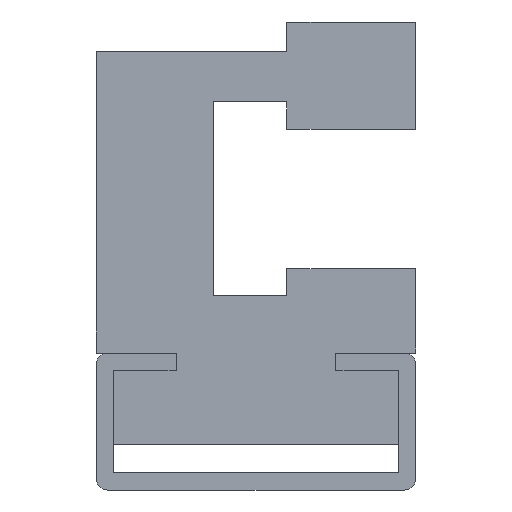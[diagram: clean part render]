
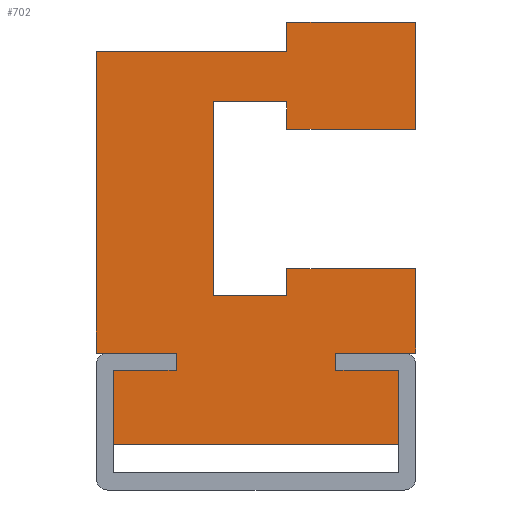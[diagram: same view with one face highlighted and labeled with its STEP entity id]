
A CAD part, front view. The second image highlights one B-rep face of the part: STEP entity #702.
In plain terms, the highlighted planar face has unit normal (0, -1, 0).
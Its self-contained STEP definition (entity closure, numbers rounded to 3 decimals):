
#61=CARTESIAN_POINT('Vertex',(2.7,0.,18.5)) ;
#66=CARTESIAN_POINT('Line Origine',(8.35,0.,18.5)) ;
#70=CARTESIAN_POINT('Vertex',(14.,0.,18.5)) ;
#97=CARTESIAN_POINT('Line Origine',(14.,0.,13.8)) ;
#101=CARTESIAN_POINT('Vertex',(14.,0.,9.1)) ;
#128=CARTESIAN_POINT('Line Origine',(8.35,0.,9.1)) ;
#132=CARTESIAN_POINT('Vertex',(2.7,0.,9.1)) ;
#159=CARTESIAN_POINT('Line Origine',(2.7,0.,10.3)) ;
#163=CARTESIAN_POINT('Vertex',(2.7,0.,11.5)) ;
#190=CARTESIAN_POINT('Line Origine',(-0.5,0.,11.5)) ;
#194=CARTESIAN_POINT('Vertex',(-3.7,0.,11.5)) ;
#221=CARTESIAN_POINT('Line Origine',(-3.7,0.,3.)) ;
#225=CARTESIAN_POINT('Vertex',(-3.7,0.,-5.5)) ;
#252=CARTESIAN_POINT('Line Origine',(-0.5,0.,-5.5)) ;
#256=CARTESIAN_POINT('Vertex',(2.7,0.,-5.5)) ;
#278=CARTESIAN_POINT('Line Origine',(2.7,0.,-4.3)) ;
#282=CARTESIAN_POINT('Vertex',(2.7,0.,-3.1)) ;
#309=CARTESIAN_POINT('Line Origine',(8.35,0.,-3.1)) ;
#313=CARTESIAN_POINT('Vertex',(14.,0.,-3.1)) ;
#342=CARTESIAN_POINT('Line Origine',(14.,0.,-6.8)) ;
#346=CARTESIAN_POINT('Vertex',(14.,0.,-10.5)) ;
#373=CARTESIAN_POINT('Line Origine',(10.5,0.,-10.5)) ;
#377=CARTESIAN_POINT('Vertex',(7.,0.,-10.5)) ;
#397=CARTESIAN_POINT('Line Origine',(7.,0.,-11.25)) ;
#401=CARTESIAN_POINT('Vertex',(7.,0.,-12.)) ;
#428=CARTESIAN_POINT('Line Origine',(9.75,0.,-12.)) ;
#432=CARTESIAN_POINT('Vertex',(12.5,0.,-12.)) ;
#466=CARTESIAN_POINT('Line Origine',(12.5,0.,-15.25)) ;
#470=CARTESIAN_POINT('Vertex',(12.5,0.,-18.5)) ;
#497=CARTESIAN_POINT('Line Origine',(0.,0.,-18.5)) ;
#501=CARTESIAN_POINT('Vertex',(-12.5,0.,-18.5)) ;
#521=CARTESIAN_POINT('Line Origine',(-12.5,0.,-15.25)) ;
#525=CARTESIAN_POINT('Vertex',(-12.5,0.,-12.)) ;
#547=CARTESIAN_POINT('Line Origine',(-9.75,0.,-12.)) ;
#551=CARTESIAN_POINT('Vertex',(-7.,0.,-12.)) ;
#578=CARTESIAN_POINT('Line Origine',(-7.,0.,-11.25)) ;
#582=CARTESIAN_POINT('Vertex',(-7.,0.,-10.5)) ;
#611=CARTESIAN_POINT('Line Origine',(-10.5,0.,-10.5)) ;
#615=CARTESIAN_POINT('Vertex',(-14.,0.,-10.5)) ;
#635=CARTESIAN_POINT('Line Origine',(-14.,0.,2.7)) ;
#639=CARTESIAN_POINT('Vertex',(-14.,0.,15.9)) ;
#661=CARTESIAN_POINT('Axis2P3D Location',(0.,0.,0.)) ;
#666=CARTESIAN_POINT('Line Origine',(2.7,0.,17.2)) ;
#670=CARTESIAN_POINT('Vertex',(2.7,0.,15.9)) ;
#673=CARTESIAN_POINT('Line Origine',(-5.65,0.,15.9)) ;
#67=DIRECTION('Vector Direction',(-1.,0.,0.)) ;
#98=DIRECTION('Vector Direction',(0.,0.,1.)) ;
#129=DIRECTION('Vector Direction',(-1.,0.,0.)) ;
#160=DIRECTION('Vector Direction',(0.,0.,1.)) ;
#191=DIRECTION('Vector Direction',(-1.,0.,0.)) ;
#222=DIRECTION('Vector Direction',(0.,0.,-1.)) ;
#253=DIRECTION('Vector Direction',(1.,0.,0.)) ;
#279=DIRECTION('Vector Direction',(0.,0.,1.)) ;
#310=DIRECTION('Vector Direction',(1.,0.,0.)) ;
#343=DIRECTION('Vector Direction',(0.,0.,1.)) ;
#374=DIRECTION('Vector Direction',(1.,0.,0.)) ;
#398=DIRECTION('Vector Direction',(0.,0.,-1.)) ;
#429=DIRECTION('Vector Direction',(1.,0.,0.)) ;
#467=DIRECTION('Vector Direction',(0.,0.,-1.)) ;
#498=DIRECTION('Vector Direction',(1.,0.,0.)) ;
#522=DIRECTION('Vector Direction',(0.,0.,1.)) ;
#548=DIRECTION('Vector Direction',(1.,0.,0.)) ;
#579=DIRECTION('Vector Direction',(0.,0.,1.)) ;
#612=DIRECTION('Vector Direction',(1.,0.,0.)) ;
#636=DIRECTION('Vector Direction',(0.,0.,-1.)) ;
#662=DIRECTION('Axis2P3D Direction',(0.,1.,0.)) ;
#663=DIRECTION('Axis2P3D XDirection',(-1.,0.,0.)) ;
#667=DIRECTION('Vector Direction',(0.,0.,1.)) ;
#674=DIRECTION('Vector Direction',(1.,0.,0.)) ;
#664=AXIS2_PLACEMENT_3D('Plane Axis2P3D',#661,#662,#663) ;
#679=ORIENTED_EDGE('',*,*,#196,.F.) ;
#680=ORIENTED_EDGE('',*,*,#165,.F.) ;
#681=ORIENTED_EDGE('',*,*,#134,.F.) ;
#682=ORIENTED_EDGE('',*,*,#103,.F.) ;
#683=ORIENTED_EDGE('',*,*,#72,.F.) ;
#684=ORIENTED_EDGE('',*,*,#672,.F.) ;
#685=ORIENTED_EDGE('',*,*,#677,.F.) ;
#686=ORIENTED_EDGE('',*,*,#641,.T.) ;
#687=ORIENTED_EDGE('',*,*,#617,.T.) ;
#688=ORIENTED_EDGE('',*,*,#584,.F.) ;
#689=ORIENTED_EDGE('',*,*,#553,.F.) ;
#690=ORIENTED_EDGE('',*,*,#527,.F.) ;
#691=ORIENTED_EDGE('',*,*,#503,.F.) ;
#692=ORIENTED_EDGE('',*,*,#472,.F.) ;
#693=ORIENTED_EDGE('',*,*,#434,.F.) ;
#694=ORIENTED_EDGE('',*,*,#403,.F.) ;
#695=ORIENTED_EDGE('',*,*,#379,.T.) ;
#696=ORIENTED_EDGE('',*,*,#348,.T.) ;
#697=ORIENTED_EDGE('',*,*,#315,.F.) ;
#698=ORIENTED_EDGE('',*,*,#284,.F.) ;
#699=ORIENTED_EDGE('',*,*,#258,.F.) ;
#700=ORIENTED_EDGE('',*,*,#227,.F.) ;
#68=VECTOR('Line Direction',#67,1.) ;
#99=VECTOR('Line Direction',#98,1.) ;
#130=VECTOR('Line Direction',#129,1.) ;
#161=VECTOR('Line Direction',#160,1.) ;
#192=VECTOR('Line Direction',#191,1.) ;
#223=VECTOR('Line Direction',#222,1.) ;
#254=VECTOR('Line Direction',#253,1.) ;
#280=VECTOR('Line Direction',#279,1.) ;
#311=VECTOR('Line Direction',#310,1.) ;
#344=VECTOR('Line Direction',#343,1.) ;
#375=VECTOR('Line Direction',#374,1.) ;
#399=VECTOR('Line Direction',#398,1.) ;
#430=VECTOR('Line Direction',#429,1.) ;
#468=VECTOR('Line Direction',#467,1.) ;
#499=VECTOR('Line Direction',#498,1.) ;
#523=VECTOR('Line Direction',#522,1.) ;
#549=VECTOR('Line Direction',#548,1.) ;
#580=VECTOR('Line Direction',#579,1.) ;
#613=VECTOR('Line Direction',#612,1.) ;
#637=VECTOR('Line Direction',#636,1.) ;
#668=VECTOR('Line Direction',#667,1.) ;
#675=VECTOR('Line Direction',#674,1.) ;
#702=ADVANCED_FACE('PartBody',(#701),#665,.F.) ;
#72=EDGE_CURVE('',#62,#71,#69,.F.) ;
#103=EDGE_CURVE('',#71,#102,#100,.F.) ;
#134=EDGE_CURVE('',#102,#133,#131,.T.) ;
#165=EDGE_CURVE('',#133,#164,#162,.T.) ;
#196=EDGE_CURVE('',#164,#195,#193,.T.) ;
#227=EDGE_CURVE('',#195,#226,#224,.T.) ;
#258=EDGE_CURVE('',#226,#257,#255,.T.) ;
#284=EDGE_CURVE('',#257,#283,#281,.T.) ;
#315=EDGE_CURVE('',#283,#314,#312,.T.) ;
#348=EDGE_CURVE('',#347,#314,#345,.T.) ;
#379=EDGE_CURVE('',#378,#347,#376,.T.) ;
#403=EDGE_CURVE('',#378,#402,#400,.T.) ;
#434=EDGE_CURVE('',#402,#433,#431,.T.) ;
#472=EDGE_CURVE('',#433,#471,#469,.T.) ;
#503=EDGE_CURVE('',#471,#502,#500,.F.) ;
#527=EDGE_CURVE('',#502,#526,#524,.T.) ;
#553=EDGE_CURVE('',#526,#552,#550,.T.) ;
#584=EDGE_CURVE('',#552,#583,#581,.T.) ;
#617=EDGE_CURVE('',#616,#583,#614,.T.) ;
#641=EDGE_CURVE('',#640,#616,#638,.T.) ;
#672=EDGE_CURVE('',#671,#62,#669,.T.) ;
#677=EDGE_CURVE('',#640,#671,#676,.T.) ;
#678=EDGE_LOOP('',(#679,#680,#681,#682,#683,#684,#685,#686,#687,#688,#689,#690,#691,#692,#693,#694,#695,#696,#697,#698,#699,#700)) ;
#701=FACE_OUTER_BOUND('',#678,.T.) ;
#69=LINE('Line',#66,#68) ;
#100=LINE('Line',#97,#99) ;
#131=LINE('Line',#128,#130) ;
#162=LINE('Line',#159,#161) ;
#193=LINE('Line',#190,#192) ;
#224=LINE('Line',#221,#223) ;
#255=LINE('Line',#252,#254) ;
#281=LINE('Line',#278,#280) ;
#312=LINE('Line',#309,#311) ;
#345=LINE('Line',#342,#344) ;
#376=LINE('Line',#373,#375) ;
#400=LINE('Line',#397,#399) ;
#431=LINE('Line',#428,#430) ;
#469=LINE('Line',#466,#468) ;
#500=LINE('Line',#497,#499) ;
#524=LINE('Line',#521,#523) ;
#550=LINE('Line',#547,#549) ;
#581=LINE('Line',#578,#580) ;
#614=LINE('Line',#611,#613) ;
#638=LINE('Line',#635,#637) ;
#669=LINE('Line',#666,#668) ;
#676=LINE('Line',#673,#675) ;
#665=PLANE('',#664) ;
#62=VERTEX_POINT('',#61) ;
#71=VERTEX_POINT('',#70) ;
#102=VERTEX_POINT('',#101) ;
#133=VERTEX_POINT('',#132) ;
#164=VERTEX_POINT('',#163) ;
#195=VERTEX_POINT('',#194) ;
#226=VERTEX_POINT('',#225) ;
#257=VERTEX_POINT('',#256) ;
#283=VERTEX_POINT('',#282) ;
#314=VERTEX_POINT('',#313) ;
#347=VERTEX_POINT('',#346) ;
#378=VERTEX_POINT('',#377) ;
#402=VERTEX_POINT('',#401) ;
#433=VERTEX_POINT('',#432) ;
#471=VERTEX_POINT('',#470) ;
#502=VERTEX_POINT('',#501) ;
#526=VERTEX_POINT('',#525) ;
#552=VERTEX_POINT('',#551) ;
#583=VERTEX_POINT('',#582) ;
#616=VERTEX_POINT('',#615) ;
#640=VERTEX_POINT('',#639) ;
#671=VERTEX_POINT('',#670) ;
